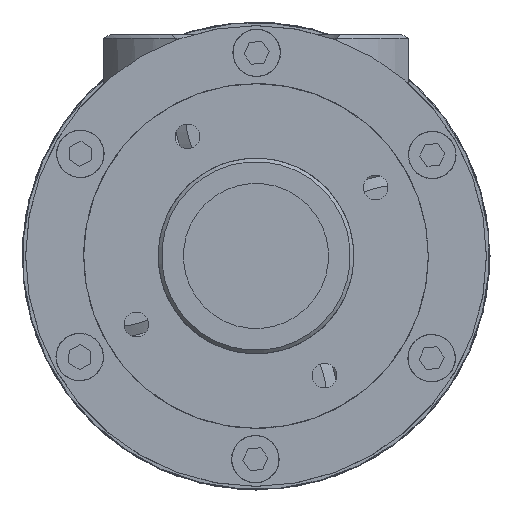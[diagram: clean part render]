
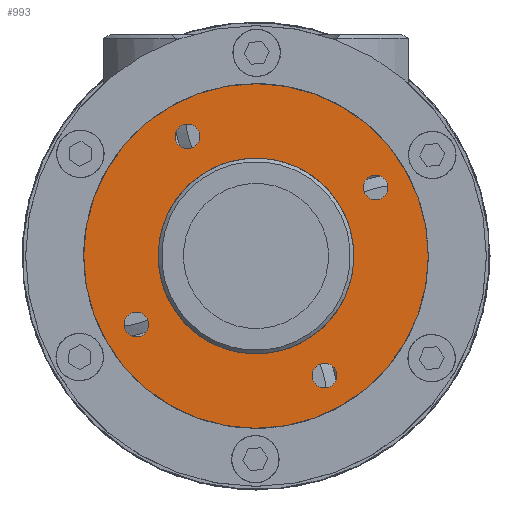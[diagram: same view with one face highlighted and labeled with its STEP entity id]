
A CAD part, left-side view. The second image highlights one B-rep face of the part: STEP entity #993.
In plain terms, the highlighted planar face has unit normal (-1, 0, 0) as drawn and (0, -1, 0) by its records, which use the part's own axes.
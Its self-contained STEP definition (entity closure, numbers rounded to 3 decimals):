
#993 = ADVANCED_FACE( '', ( #2132, #2133, #2134, #2135, #2136, #2137 ), #2138, .F. );
#2132 = FACE_OUTER_BOUND( '', #3306, .T. );
#2133 = FACE_BOUND( '', #3307, .T. );
#2134 = FACE_BOUND( '', #3308, .T. );
#2135 = FACE_BOUND( '', #3309, .T. );
#2136 = FACE_BOUND( '', #3310, .T. );
#2137 = FACE_BOUND( '', #3311, .T. );
#2138 = PLANE( '', #3312 );
#3306 = EDGE_LOOP( '', ( #5806 ) );
#3307 = EDGE_LOOP( '', ( #5807 ) );
#3308 = EDGE_LOOP( '', ( #5808 ) );
#3309 = EDGE_LOOP( '', ( #5809 ) );
#3310 = EDGE_LOOP( '', ( #5810 ) );
#3311 = EDGE_LOOP( '', ( #5811 ) );
#3312 = AXIS2_PLACEMENT_3D( '', #5812, #5813, #5814 );
#5806 = ORIENTED_EDGE( '', *, *, #7012, .T. );
#5807 = ORIENTED_EDGE( '', *, *, #7021, .F. );
#5808 = ORIENTED_EDGE( '', *, *, #7013, .F. );
#5809 = ORIENTED_EDGE( '', *, *, #7022, .F. );
#5810 = ORIENTED_EDGE( '', *, *, #7020, .F. );
#5811 = ORIENTED_EDGE( '', *, *, #7019, .F. );
#5812 = CARTESIAN_POINT( '', ( 0., 0., 47.5 ) );
#5813 = DIRECTION( '', ( 0., 1., 0. ) );
#5814 = DIRECTION( '', ( 1., 0., 0. ) );
#7012 = EDGE_CURVE( '', #8295, #8295, #8296, .T. );
#7013 = EDGE_CURVE( '', #8297, #8297, #8298, .T. );
#7019 = EDGE_CURVE( '', #8309, #8309, #8310, .T. );
#7020 = EDGE_CURVE( '', #8311, #8311, #8312, .T. );
#7021 = EDGE_CURVE( '', #8313, #8313, #8314, .T. );
#7022 = EDGE_CURVE( '', #8315, #8315, #8316, .T. );
#8295 = VERTEX_POINT( '', #10369 );
#8296 = CIRCLE( '', #10370, 47.5 );
#8297 = VERTEX_POINT( '', #10371 );
#8298 = CIRCLE( '', #10372, 3.4 );
#8309 = VERTEX_POINT( '', #10383 );
#8310 = CIRCLE( '', #10384, 27. );
#8311 = VERTEX_POINT( '', #10385 );
#8312 = CIRCLE( '', #10386, 3.4 );
#8313 = VERTEX_POINT( '', #10387 );
#8314 = CIRCLE( '', #10388, 3.4 );
#8315 = VERTEX_POINT( '', #10389 );
#8316 = CIRCLE( '', #10390, 3.4 );
#10369 = CARTESIAN_POINT( '', ( 0., 0., -47.5 ) );
#10370 = AXIS2_PLACEMENT_3D( '', #12071, #12072, #12073 );
#10371 = CARTESIAN_POINT( '', ( -3.4, 0., -38. ) );
#10372 = AXIS2_PLACEMENT_3D( '', #12074, #12075, #12076 );
#10383 = CARTESIAN_POINT( '', ( 0., 0., -27. ) );
#10384 = AXIS2_PLACEMENT_3D( '', #12092, #12093, #12094 );
#10385 = CARTESIAN_POINT( '', ( 3.4, 0., 38. ) );
#10386 = AXIS2_PLACEMENT_3D( '', #12095, #12096, #12097 );
#10387 = CARTESIAN_POINT( '', ( -38., 0., 3.4 ) );
#10388 = AXIS2_PLACEMENT_3D( '', #12098, #12099, #12100 );
#10389 = CARTESIAN_POINT( '', ( 38., 0., -3.4 ) );
#10390 = AXIS2_PLACEMENT_3D( '', #12101, #12102, #12103 );
#12071 = CARTESIAN_POINT( '', ( 0., 0., 0. ) );
#12072 = DIRECTION( '', ( 0., -1., 0. ) );
#12073 = DIRECTION( '', ( 0., 0., -1. ) );
#12074 = CARTESIAN_POINT( '', ( 0., 0., -38. ) );
#12075 = DIRECTION( '', ( 0., -1., 0. ) );
#12076 = DIRECTION( '', ( -1., 0., 0. ) );
#12092 = CARTESIAN_POINT( '', ( 0., 0., 0. ) );
#12093 = DIRECTION( '', ( 0., -1., 0. ) );
#12094 = DIRECTION( '', ( 0., 0., -1. ) );
#12095 = CARTESIAN_POINT( '', ( 0., 0., 38. ) );
#12096 = DIRECTION( '', ( 0., -1., 0. ) );
#12097 = DIRECTION( '', ( 1., 0., 0. ) );
#12098 = CARTESIAN_POINT( '', ( -38., 0., 0. ) );
#12099 = DIRECTION( '', ( 0., -1., 0. ) );
#12100 = DIRECTION( '', ( 0., 0., 1. ) );
#12101 = CARTESIAN_POINT( '', ( 38., 0., 0. ) );
#12102 = DIRECTION( '', ( 0., -1., 0. ) );
#12103 = DIRECTION( '', ( 0., 0., -1. ) );
